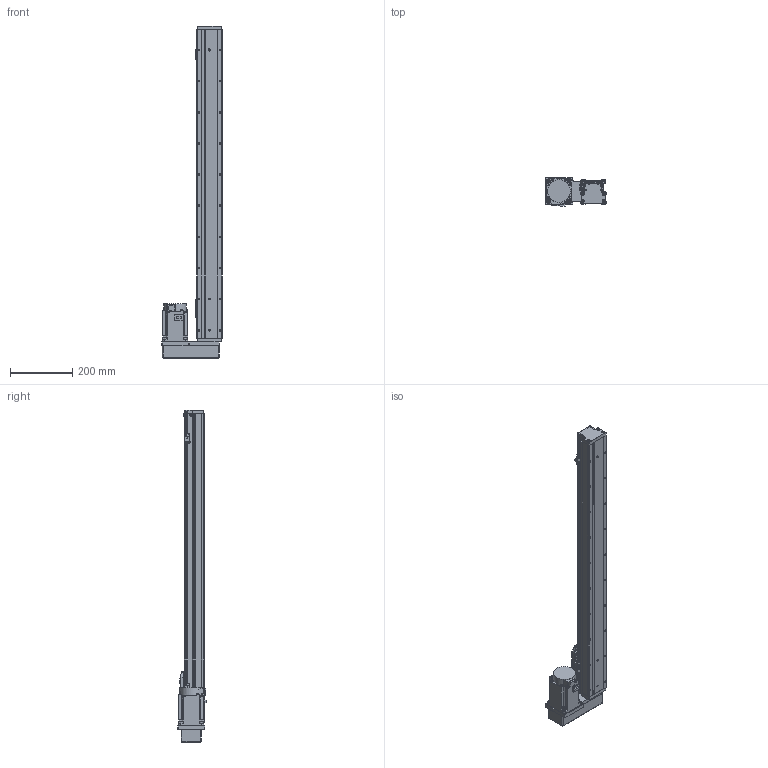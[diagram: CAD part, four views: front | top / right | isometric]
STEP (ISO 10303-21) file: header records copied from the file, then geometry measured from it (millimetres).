
FILE_DESCRIPTION (( 'STEP AP203' ), '1' );
FILE_NAME ('GTH8-800-BL-M75-C4.step', '2023-02-14T02:25:34', ( '微软用户' ), ( '微软中国' ), 'SwSTEP 2.0', 'SolidWorks 2020', '' );
FILE_SCHEMA (( 'CONFIG_CONTROL_DESIGN' ));
Length unit declared in the file: millimetre
Products named in the file (18): GBT 70.3-M3℅6; GBT96.1-2002 3×0.8; GTH80-022; BTH-M3X5X6; GTH80-001_800; GBT 70.1-M3℅6; CTHA86-015-3_CTHA86-015-4; GTH80-003; GBT 70.1-M4×16; CTHA86-035; GTH80-004; GTH80-028; hg-kn73j_-s100; GTH80-006; GTH50-024; GTH8-800-BL-M75-C4; GTH80-013; GTH50-023
Assembly tree (57 placements, depth 2):
  GTH8-800-BL-M75-C4
    GTH80-001_800
    GTH80-003
    GTH80-004
    GTH80-006
    GTH80-013
    GBT 70.3-M3℅6  x4
    GTH80-022
    GBT 70.1-M3℅6  x14
    GBT 70.1-M4×16  x8
    GTH80-028  x2
    GTH50-024  x3
    GTH50-023  x3
    GBT96.1-2002 3×0.8  x6
    BTH-M3X5X6  x8
    CTHA86-015-3_CTHA86-015-4
    CTHA86-035
    hg-kn73j_-s100
Bounding box: 193.5 x 92.3 x 1066 mm (x, y, z)
Volume: 5831835.9 mm3; surface area: 572480 mm2
Topology: 59 solids, 59 shells, 2203 faces, 5118 edges, 3136 vertices
Faces by surface type: plane 1153, cylinder 635, cone 243, torus 158, sphere 12, bspline 2
Entity records: 39884 total; most frequent: CARTESIAN_POINT 6695, DIRECTION 6585, ORIENTED_EDGE 6046, EDGE_CURVE 3023, AXIS2_PLACEMENT_3D 2326, LINE 1933, VECTOR 1933, VERTEX_POINT 1911
